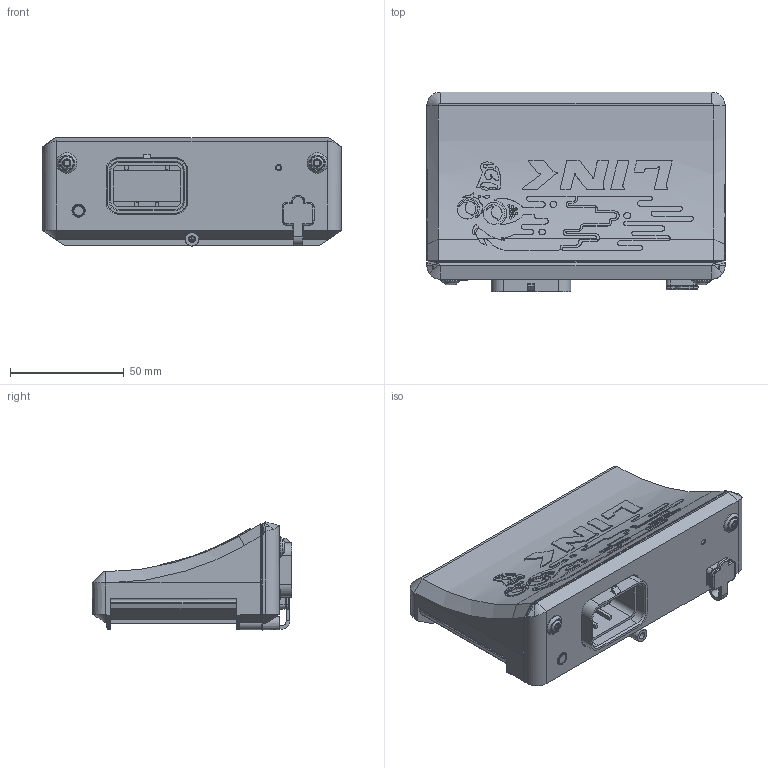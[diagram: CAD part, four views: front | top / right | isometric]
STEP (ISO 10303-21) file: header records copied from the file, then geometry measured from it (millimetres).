
FILE_DESCRIPTION(/* description */ ('STEP AP242','CAx-IF Rec.Pracs.---Representation and Presentation of Product Manufacturing Information (PMI)---4.0---2014-10-13','CAx-IF Rec.Pracs.---3D Tessellated Geometry---0.4---2014-09-14','2;1'),/* implementation_level */ '2;1');
FILE_NAME(/* name */ '6792af1584cc9861630cabc9',/* time_stamp */ '2025-01-23T21:05:27Z',/* author */ (''),/* organization */ (''),/* preprocessor_version */ 'ST-DEVELOPER v20',/* originating_system */ 'ONSHAPE BY PTC INC, 1.192',/* authorisation */ ' ');
FILE_SCHEMA (('AP242_MANAGED_MODEL_BASED_3D_ENGINEERING_MIM_LF { 1 0 10303 442 1 1 4 }'));
Products named in the file (1): ATOM EXTERNAL MODEL
Bounding box: 131 x 87.8 x 47.56 mm (x, y, z)
Volume: 284939 mm3; surface area: 74781.5 mm2
Topology: 1 solids, 24 shells, 1315 faces, 3481 edges, 2240 vertices
Faces by surface type: plane 691, cylinder 309, bspline 150, cone 118, torus 39, sphere 8
Full cylindrical faces by diameter (mm): 3 x2, 4.148 x1, 4.8 x1, 5 x1, 5.45 x2, 6 x1, 8 x1
Entity records: 49644 total; most frequent: CARTESIAN_POINT 18770, ORIENTED_EDGE 6714, DIRECTION 5742, EDGE_CURVE 3357, VERTEX_POINT 2186, LINE 2018, VECTOR 2018, AXIS2_PLACEMENT_3D 1862
